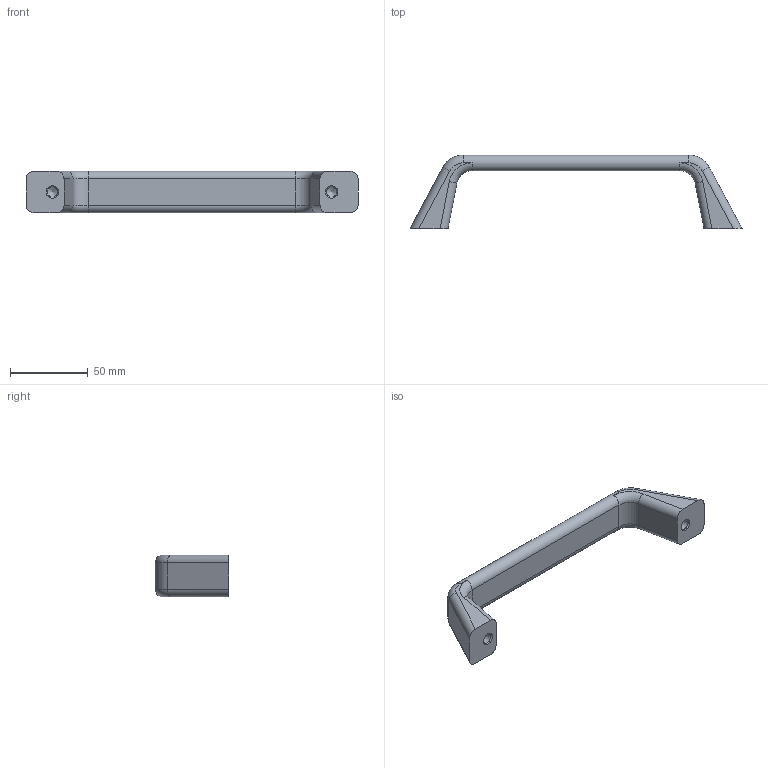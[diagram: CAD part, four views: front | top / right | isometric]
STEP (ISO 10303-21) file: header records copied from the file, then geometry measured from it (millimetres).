
FILE_DESCRIPTION( ( 'STEP AP203' ), '1' );
FILE_NAME( 'C:/Temp/Ganter_Step_05_03_2020/data/1_2/gn_728/gn_728_a/Cabinet U-handle GN 728-180-A-SW.stp', '2020-03-05T10:10:19', ( 'License CC BY-ND 4.0' ), ( 'CADENAS' ), ' ', 'PARTsolutions', ' ' );
FILE_SCHEMA( ( 'CONFIG_CONTROL_DESIGN' ) );
Length unit declared in the file: millimetre
Products named in the file (1): _Cabinet U-handle GN 728-180-A-SW
Bounding box: 214 x 47.5 x 27 mm (x, y, z)
Volume: 75904.1 mm3; surface area: 19186.8 mm2
Topology: 1 solids, 1 shells, 40 faces, 94 edges, 56 vertices
Faces by surface type: cylinder 16, plane 12, torus 8, cone 4
Full cylindrical faces by diameter (mm): 6.647 x2
Entity records: 1148 total; most frequent: DIRECTION 214, CARTESIAN_POINT 183, ORIENTED_EDGE 172, AXIS2_PLACEMENT_3D 87, EDGE_CURVE 86, VERTEX_POINT 56, EDGE_LOOP 46, FACE_OUTER_BOUND 42
